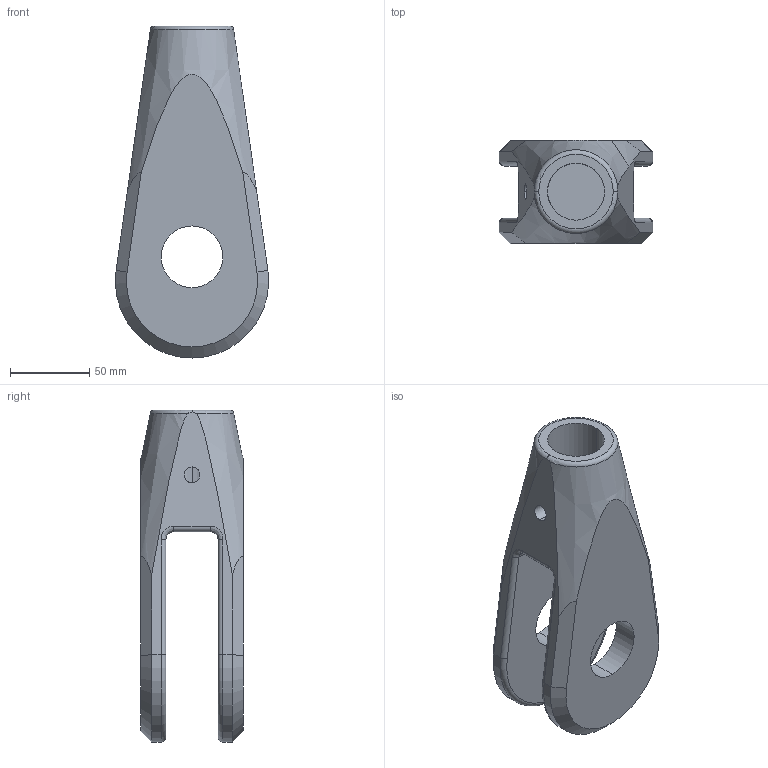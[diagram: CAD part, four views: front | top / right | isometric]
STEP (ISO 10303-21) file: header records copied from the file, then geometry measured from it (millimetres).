
FILE_DESCRIPTION (( 'STEP AP203' ), '1' );
FILE_NAME ('Gabelkopf M36.STEP', '2018-02-20T06:37:40', ( 'install' ), ( 'Hewlett-Packard Company' ), 'SwSTEP 2.0', 'SolidWorks 2017', '' );
FILE_SCHEMA (( 'CONFIG_CONTROL_DESIGN' ));
Length unit declared in the file: millimetre
Products named in the file (1): Gabelkopf M36
Bounding box: 96.96 x 65 x 210 mm (x, y, z)
Volume: 486753.9 mm3; surface area: 78631.8 mm2
Topology: 1 solids, 1 shells, 47 faces, 115 edges, 70 vertices
Faces by surface type: cylinder 20, plane 13, cone 5, torus 5, bspline 4
Entity records: 1939 total; most frequent: CARTESIAN_POINT 787, ORIENTED_EDGE 230, DIRECTION 222, EDGE_CURVE 115, AXIS2_PLACEMENT_3D 89, VERTEX_POINT 70, EDGE_LOOP 53, ADVANCED_FACE 47
